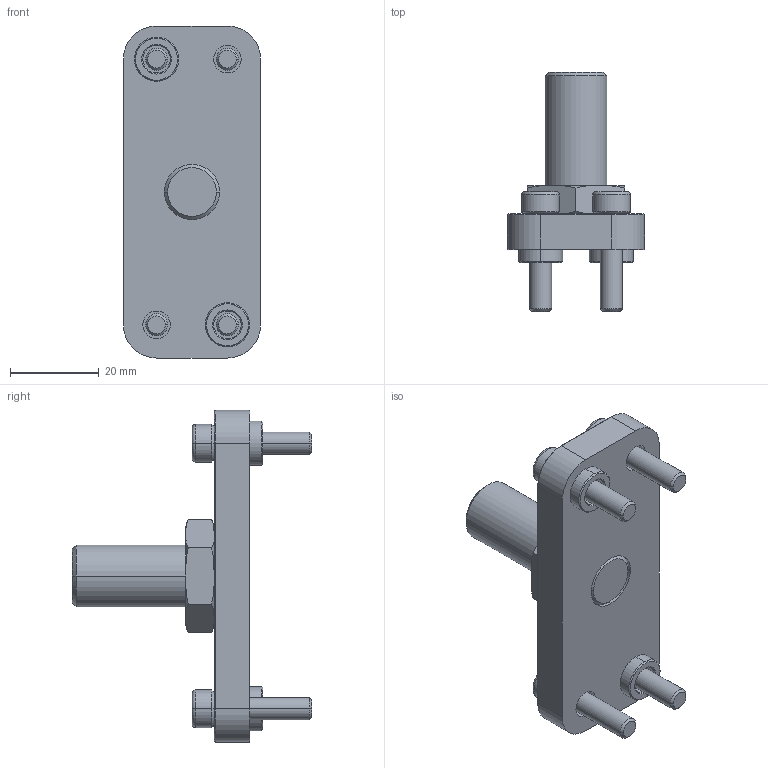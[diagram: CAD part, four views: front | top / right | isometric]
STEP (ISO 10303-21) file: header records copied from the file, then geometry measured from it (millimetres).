
FILE_DESCRIPTION (( 'STEP AP203' ), '1' );
FILE_NAME ('75016007.STEP', '2019-01-07T12:36:16', ( '' ), ( '' ), 'SwSTEP 2.0', 'SolidWorks 2015', '' );
FILE_SCHEMA (( 'CONFIG_CONTROL_DESIGN' ));
Length unit declared in the file: millimetre
Products named in the file (1): 75016007
Bounding box: 31 x 54 x 75 mm (x, y, z)
Volume: 26454.9 mm3; surface area: 11114.2 mm2
Topology: 1 solids, 3 shells, 176 faces, 382 edges, 234 vertices
Faces by surface type: plane 72, cylinder 44, cone 40, torus 20
Entity records: 5025 total; most frequent: CARTESIAN_POINT 1017, DIRECTION 870, ORIENTED_EDGE 764, EDGE_CURVE 382, AXIS2_PLACEMENT_3D 335, VERTEX_POINT 234, EDGE_LOOP 202, LINE 200
